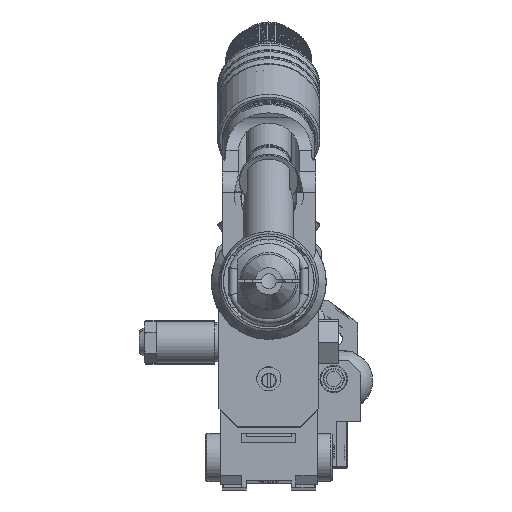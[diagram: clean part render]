
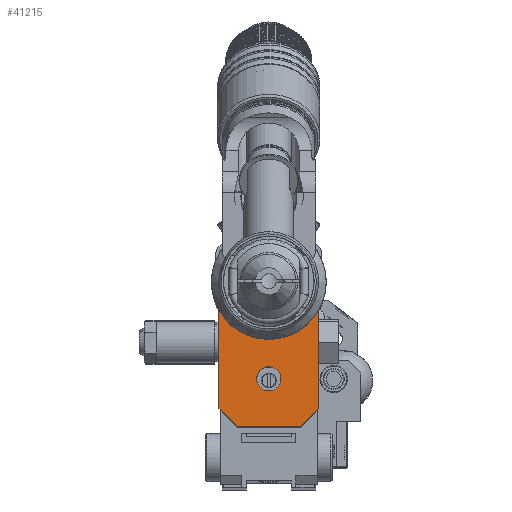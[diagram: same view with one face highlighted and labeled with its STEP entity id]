
A CAD part, top view. The second image highlights one B-rep face of the part: STEP entity #41215.
In plain terms, the highlighted planar face has unit normal (0, 0, 1).
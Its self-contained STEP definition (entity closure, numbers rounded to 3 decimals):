
#269=LINE($,#64812,#2994);
#1345=LINE($,#70414,#4070);
#1351=LINE($,#70431,#4076);
#1353=LINE($,#70435,#4078);
#1355=LINE($,#70439,#4080);
#1356=LINE($,#70441,#4081);
#1357=LINE($,#70442,#4082);
#2994=VECTOR($,#48384,2.069);
#4070=VECTOR($,#51738,34.);
#4076=VECTOR($,#51754,2.069);
#4078=VECTOR($,#51758,34.);
#4080=VECTOR($,#51762,8.485);
#4081=VECTOR($,#51763,21.);
#4082=VECTOR($,#51764,8.485);
#9389=PLANE($,#44368);
#11317=FACE_BOUND($,#15563,.T.);
#12757=FACE_OUTER_BOUND($,#15562,.T.);
#15562=EDGE_LOOP($,(#33237,#33238,#33239,#33240,#33241,#33242,#33243,#33244));
#15563=EDGE_LOOP($,(#33245));
#17607=CIRCLE($,#43214,16.5);
#18055=CIRCLE($,#44369,4.);
#19753=VERTEX_POINT($,#64790);
#19754=VERTEX_POINT($,#64792);
#19759=VERTEX_POINT($,#64810);
#20964=VERTEX_POINT($,#70412);
#20970=VERTEX_POINT($,#70430);
#20971=VERTEX_POINT($,#70434);
#20972=VERTEX_POINT($,#70438);
#20973=VERTEX_POINT($,#70440);
#20974=VERTEX_POINT($,#70443);
#23784=EDGE_CURVE($,#19753,#19754,#17607,.T.);
#23789=EDGE_CURVE($,#19759,#19753,#269,.T.);
#25513=EDGE_CURVE($,#20964,#19759,#1345,.T.);
#25521=EDGE_CURVE($,#19754,#20970,#1351,.T.);
#25523=EDGE_CURVE($,#20970,#20971,#1353,.T.);
#25525=EDGE_CURVE($,#20972,#20964,#1355,.T.);
#25526=EDGE_CURVE($,#20973,#20972,#1356,.T.);
#25527=EDGE_CURVE($,#20971,#20973,#1357,.T.);
#25528=EDGE_CURVE($,#20974,#20974,#18055,.T.);
#33237=ORIENTED_EDGE($,*,*,#25521,.F.);
#33238=ORIENTED_EDGE($,*,*,#23784,.F.);
#33239=ORIENTED_EDGE($,*,*,#23789,.F.);
#33240=ORIENTED_EDGE($,*,*,#25513,.F.);
#33241=ORIENTED_EDGE($,*,*,#25525,.F.);
#33242=ORIENTED_EDGE($,*,*,#25526,.F.);
#33243=ORIENTED_EDGE($,*,*,#25527,.F.);
#33244=ORIENTED_EDGE($,*,*,#25523,.F.);
#33245=ORIENTED_EDGE($,*,*,#25528,.T.);
#41215=ADVANCED_FACE($,(#12757,#11317),#9389,.T.);
#43214=AXIS2_PLACEMENT_3D($,#64798,#48365,#48366);
#44368=AXIS2_PLACEMENT_3D($,#70437,#51760,#51761);
#44369=AXIS2_PLACEMENT_3D($,#70444,#51765,#51766);
#48365=DIRECTION('center_axis',(0.,0.,
1.));
#48366=DIRECTION('ref_axis',(-0.875,-0.485,0.));
#48384=DIRECTION($,(1.,0.,0.));
#51738=DIRECTION($,(0.,1.,0.));
#51754=DIRECTION($,(1.,0.,0.));
#51758=DIRECTION($,(0.,-1.,0.));
#51760=DIRECTION('center_axis',(0.,0.,
1.));
#51761=DIRECTION('ref_axis',(1.,0.,0.));
#51762=DIRECTION($,(-0.707,0.707,0.));
#51763=DIRECTION($,(-1.,0.,0.));
#51764=DIRECTION($,(-0.707,-0.707,0.));
#51765=DIRECTION('center_axis',(0.,0.,
-1.));
#51766=DIRECTION('ref_axis',(-1.,0.,0.));
#64790=CARTESIAN_POINT('',(-14.431,60.,30.));
#64792=CARTESIAN_POINT('',(14.431,60.,30.));
#64798=CARTESIAN_POINT('Origin',(0.,68.,
30.));
#64810=CARTESIAN_POINT('',(-16.5,60.,30.));
#64812=CARTESIAN_POINT($,(-16.5,60.,30.));
#70412=CARTESIAN_POINT('',(-16.5,26.,30.));
#70414=CARTESIAN_POINT($,(-16.5,26.,30.));
#70430=CARTESIAN_POINT('',(16.5,60.,30.));
#70431=CARTESIAN_POINT($,(14.431,60.,30.));
#70434=CARTESIAN_POINT('',(16.5,26.,30.));
#70435=CARTESIAN_POINT($,(16.5,60.,30.));
#70437=CARTESIAN_POINT('Origin',(0.,40.724,
30.));
#70438=CARTESIAN_POINT('',(-10.5,20.,30.));
#70439=CARTESIAN_POINT($,(-10.5,20.,30.));
#70440=CARTESIAN_POINT('',(10.5,20.,30.));
#70441=CARTESIAN_POINT($,(10.5,20.,30.));
#70442=CARTESIAN_POINT($,(16.5,26.,30.));
#70443=CARTESIAN_POINT('',(4.,36.,30.));
#70444=CARTESIAN_POINT('Origin',(0.,36.,
30.));
